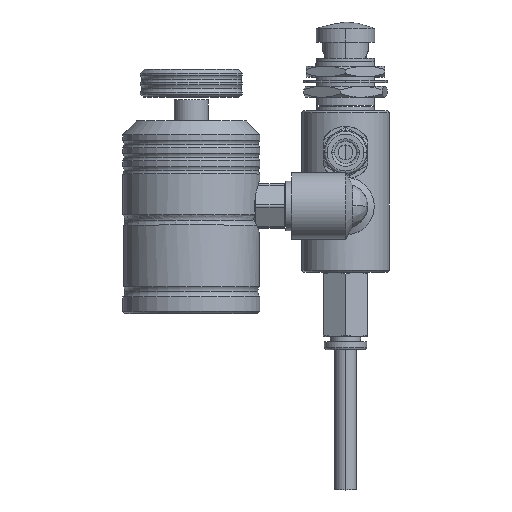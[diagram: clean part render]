
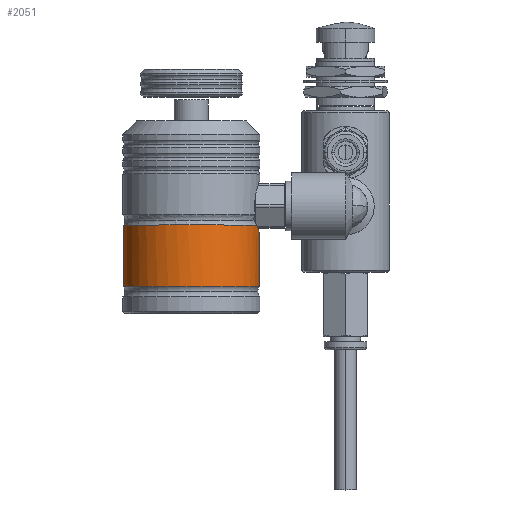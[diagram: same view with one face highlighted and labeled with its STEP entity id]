
A CAD part, top view. The second image highlights one B-rep face of the part: STEP entity #2051.
In plain terms, the highlighted cylindrical face has radius 12.319 mm (diameter 24.638 mm), a partial arc.
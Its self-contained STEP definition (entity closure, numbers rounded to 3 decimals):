
#41 = DIRECTION ( 'NONE',  ( 0., 1., 0. ) ) ;
#74 = CARTESIAN_POINT ( 'NONE',  ( 12.319, 6., 0. ) ) ;
#971 = CARTESIAN_POINT ( 'NONE',  ( 12.047, 15.492, 2.573 ) ) ;
#1018 = CARTESIAN_POINT ( 'NONE',  ( 0., 6., 0. ) ) ;
#1190 = CARTESIAN_POINT ( 'NONE',  ( 0., 16.038, 0. ) ) ;
#1386 = CARTESIAN_POINT ( 'NONE',  ( -12.319, 4.837, 0. ) ) ;
#1936 = LINE ( 'NONE', #2015, #8155 ) ;
#1950 = CARTESIAN_POINT ( 'NONE',  ( 11.913, 15.915, 3.14 ) ) ;
#2015 = CARTESIAN_POINT ( 'NONE',  ( -12.319, 6., 0. ) ) ;
#2031 = CARTESIAN_POINT ( 'NONE',  ( 12.274, 14.854, 1.048 ) ) ;
#2051 = ADVANCED_FACE ( 'NONE', ( #14705 ), #2400, .T. ) ;
#2137 = CIRCLE ( 'NONE', #12618, 12.319 ) ;
#2187 = CARTESIAN_POINT ( 'NONE',  ( 12.14, 15.223, 2.096 ) ) ;
#2400 = CYLINDRICAL_SURFACE ( 'NONE', #10614, 12.319 ) ;
#2803 = VERTEX_POINT ( 'NONE', #14253 ) ;
#2989 = VECTOR ( 'NONE', #13920, 1000. ) ;
#3114 = CARTESIAN_POINT ( 'NONE',  ( 12.189, 15.086, 1.787 ) ) ;
#3149 = DIRECTION ( 'NONE',  ( 0., 1., 0. ) ) ;
#3191 = CARTESIAN_POINT ( 'NONE',  ( 11.945, 15.809, 3.013 ) ) ;
#3235 = DIRECTION ( 'NONE',  ( -1., 0., 0. ) ) ;
#3282 = CARTESIAN_POINT ( 'NONE',  ( 12.187, 15.091, 1.801 ) ) ;
#3359 = CARTESIAN_POINT ( 'NONE',  ( 12.02, 15.575, 2.697 ) ) ;
#3968 = VERTEX_POINT ( 'NONE', #13750 ) ;
#3971 = DIRECTION ( 'NONE',  ( 0., 1., 0. ) ) ;
#4116 = VERTEX_POINT ( 'NONE', #15622 ) ;
#4427 = CARTESIAN_POINT ( 'NONE',  ( 12.039, 15.518, 2.612 ) ) ;
#4591 = CARTESIAN_POINT ( 'NONE',  ( 12.174, 15.125, 1.882 ) ) ;
#4701 = ORIENTED_EDGE ( 'NONE', *, *, #16117, .T. ) ;
#5730 = CARTESIAN_POINT ( 'NONE',  ( 12.046, 15.497, 2.581 ) ) ;
#5813 = CARTESIAN_POINT ( 'NONE',  ( 12.319, 14.738, 0.3 ) ) ;
#6546 = ORIENTED_EDGE ( 'NONE', *, *, #9417, .T. ) ;
#6976 = CARTESIAN_POINT ( 'NONE',  ( 12.047, 15.493, 2.575 ) ) ;
#7046 = CARTESIAN_POINT ( 'NONE',  ( 12.283, 14.832, 0.944 ) ) ;
#7642 = CARTESIAN_POINT ( 'NONE',  ( 11.877, 16.038, 3.271 ) ) ;
#8155 = VECTOR ( 'NONE', #14634, 1000. ) ;
#8280 = CARTESIAN_POINT ( 'NONE',  ( 12.254, 14.908, 1.264 ) ) ;
#8359 = CARTESIAN_POINT ( 'NONE',  ( 12.212, 15.02, 1.625 ) ) ;
#8916 = LINE ( 'NONE', #74, #2989 ) ;
#9417 = EDGE_CURVE ( 'NONE', #12255, #3968, #12048, .T. ) ;
#9572 = CARTESIAN_POINT ( 'NONE',  ( 12.077, 15.402, 2.432 ) ) ;
#9646 = CARTESIAN_POINT ( 'NONE',  ( 12.265, 14.879, 1.156 ) ) ;
#9881 = EDGE_LOOP ( 'NONE', ( #6546, #4701, #13666, #10639, #15060 ) ) ;
#10210 = AXIS2_PLACEMENT_3D ( 'NONE', #13892, #3149, #3235 ) ;
#10553 = CARTESIAN_POINT ( 'NONE',  ( 12.231, 14.971, 1.48 ) ) ;
#10614 = AXIS2_PLACEMENT_3D ( 'NONE', #1018, #41, #12409 ) ;
#10631 = CARTESIAN_POINT ( 'NONE',  ( 12.308, 14.766, 0.604 ) ) ;
#10639 = ORIENTED_EDGE ( 'NONE', *, *, #10763, .F. ) ;
#10705 = CARTESIAN_POINT ( 'NONE',  ( 12.151, 15.191, 2.03 ) ) ;
#10763 = EDGE_CURVE ( 'NONE', #4116, #11997, #2137, .T. ) ;
#10969 = B_SPLINE_CURVE_WITH_KNOTS ( 'NONE', 3,
 ( #14568, #1950, #3191, #15896, #11948, #3359, #12026, #4427, #12194, #5730, #6976, #971, #9572, #15822, #2187, #10705, #15729, #4591, #14336, #3282, #3114, #8359, #10553, #8280, #9646, #2031, #13344, #7046, #10631, #5813, #15657 ),
 .UNSPECIFIED., .F., .F.,
 ( 4, 2, 2, 1, 1, 1, 2, 2, 2, 2, 1, 2, 2, 2, 1, 2, 2, 4 ),
 ( 0., 0.125, 0.187, 0.219, 0.234, 0.242, 0.246, 0.25, 0.375, 0.437, 0.469, 0.484, 0.5, 0.625, 0.687, 0.719, 0.75, 1. ),
 .UNSPECIFIED. ) ;
#11274 = EDGE_CURVE ( 'NONE', #11997, #2803, #10969, .T. ) ;
#11948 = CARTESIAN_POINT ( 'NONE',  ( 12.001, 15.632, 2.779 ) ) ;
#11997 = VERTEX_POINT ( 'NONE', #7642 ) ;
#12026 = CARTESIAN_POINT ( 'NONE',  ( 12.029, 15.547, 2.657 ) ) ;
#12048 = CIRCLE ( 'NONE', #10210, 12.319 ) ;
#12194 = CARTESIAN_POINT ( 'NONE',  ( 12.044, 15.503, 2.59 ) ) ;
#12255 = VERTEX_POINT ( 'NONE', #1386 ) ;
#12409 = DIRECTION ( 'NONE',  ( -1., 0., 0. ) ) ;
#12480 = EDGE_CURVE ( 'NONE', #12255, #4116, #1936, .T. ) ;
#12618 = AXIS2_PLACEMENT_3D ( 'NONE', #1190, #3971, #13875 ) ;
#13344 = CARTESIAN_POINT ( 'NONE',  ( 12.28, 14.839, 0.977 ) ) ;
#13666 = ORIENTED_EDGE ( 'NONE', *, *, #11274, .F. ) ;
#13750 = CARTESIAN_POINT ( 'NONE',  ( 12.319, 4.837, 0. ) ) ;
#13875 = DIRECTION ( 'NONE',  ( -1., 0., 0. ) ) ;
#13892 = CARTESIAN_POINT ( 'NONE',  ( 0., 4.837, 0. ) ) ;
#13920 = DIRECTION ( 'NONE',  ( 0., 1., 0. ) ) ;
#14253 = CARTESIAN_POINT ( 'NONE',  ( 12.319, 14.738, 0. ) ) ;
#14336 = CARTESIAN_POINT ( 'NONE',  ( 12.182, 15.105, 1.834 ) ) ;
#14568 = CARTESIAN_POINT ( 'NONE',  ( 11.877, 16.038, 3.271 ) ) ;
#14634 = DIRECTION ( 'NONE',  ( 0., 1., 0. ) ) ;
#14705 = FACE_OUTER_BOUND ( 'NONE', #9881, .T. ) ;
#15060 = ORIENTED_EDGE ( 'NONE', *, *, #12480, .F. ) ;
#15622 = CARTESIAN_POINT ( 'NONE',  ( -12.319, 16.038, 0. ) ) ;
#15657 = CARTESIAN_POINT ( 'NONE',  ( 12.319, 14.738, 0. ) ) ;
#15729 = CARTESIAN_POINT ( 'NONE',  ( 12.167, 15.146, 1.931 ) ) ;
#15822 = CARTESIAN_POINT ( 'NONE',  ( 12.104, 15.325, 2.296 ) ) ;
#15896 = CARTESIAN_POINT ( 'NONE',  ( 11.988, 15.673, 2.836 ) ) ;
#16117 = EDGE_CURVE ( 'NONE', #3968, #2803, #8916, .T. ) ;
